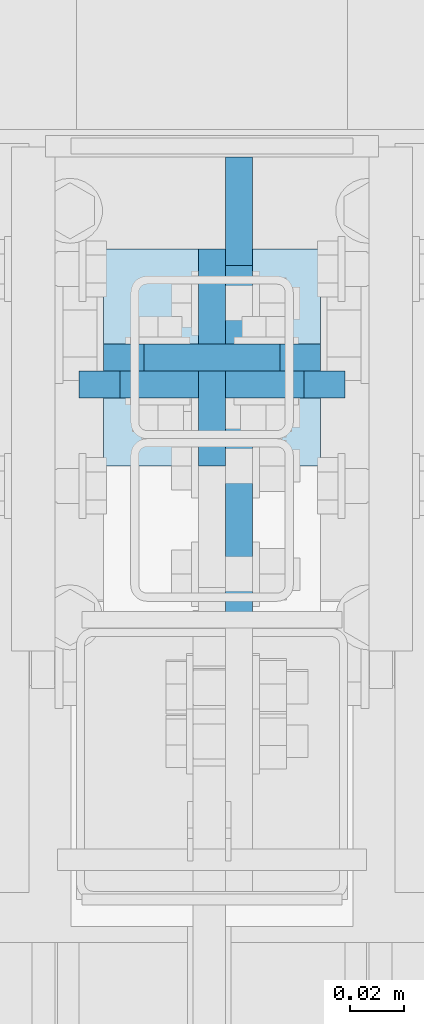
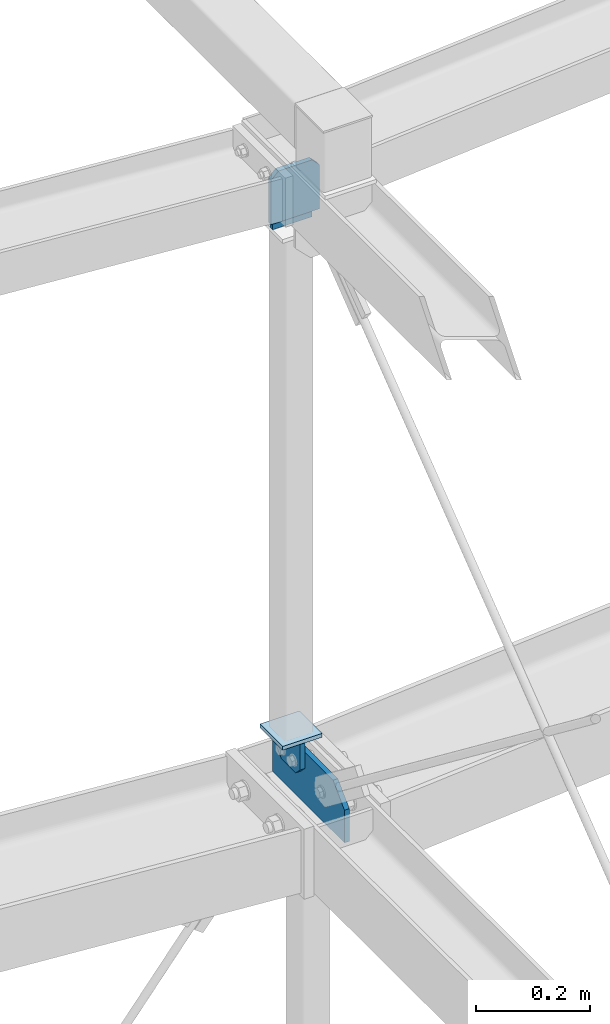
# One storey, part 133 of 271: 5 plates, 3 elements without a shape of their own.
"""IFC2X3 building model written with IfcOpenShell, lengths in millimetres."""

import ifcopenshell
import ifcopenshell.guid

model = None  # the IFC model being written
_history = None  # IfcOwnerHistory: only IFC2X3 demands one
_inside = {}  # id of a spatial element -> (the spatial element, [elements in it])
_under = {}  # id of a project, library or spatial element -> (it, [spatial elements below it])
_declared = {}  # id of a project -> (the project, [libraries it declares])
_typed = {}  # id of a type object -> (the type object, [elements of that type])
_made_of = {}  # id of a material, layer set ... -> (it, [elements and type objects made of it])


def new_model(schema):
    """Start an empty IFC model of exactly this schema.

    Asked for "IFC4X3", IfcOpenShell would pick the latest addendum, in which some entities
    have other attributes; the version numbers below select the first issue.
    IFC2X3 requires an IfcOwnerHistory on every rooted entity: one is made here for all.
    """
    global model, _history
    if schema == "IFC4X3":
        model = ifcopenshell.file(schema_version=(4, 3, 0, 0))
    else:
        model = ifcopenshell.file(schema=schema)
    _inside.clear()
    _under.clear()
    _declared.clear()
    _typed.clear()
    _made_of.clear()
    _history = None
    if model.schema == "IFC2X3":
        org = make("IfcOrganization", Name="unknown")
        user = make(
            "IfcPersonAndOrganization",
            ThePerson=make("IfcPerson", FamilyName="unknown"),
            TheOrganization=org,
        )
        app = make(
            "IfcApplication",
            ApplicationDeveloper=org,
            Version="unknown",
            ApplicationFullName="unknown",
            ApplicationIdentifier="unknown",
        )
        _history = make(
            "IfcOwnerHistory",
            OwningUser=user,
            OwningApplication=app,
            ChangeAction="ADDED",
            CreationDate=0,
        )
    return model


def make(cls, **values):
    """One entity of the class cls with the attributes given. An attribute that is None is left unset."""
    return model.create_entity(
        cls, **{name: value for name, value in values.items() if value is not None}
    )


def rooted(cls, **values):
    """An entity with a GlobalId (a new one), such as an element, a storey or a relation."""
    return make(cls, GlobalId=ifcopenshell.guid.new(), OwnerHistory=_history, **values)


def si_unit(unit_type, name, prefix=None):
    """IfcSIUnit, for example si_unit("LENGTHUNIT", "METRE", prefix="MILLI")."""
    return make("IfcSIUnit", UnitType=unit_type, Prefix=prefix, Name=name)


def assignment(units):
    """IfcUnitAssignment: the units of a project."""
    return None if units is None else make("IfcUnitAssignment", Units=units)


def point(xyz):
    """IfcCartesianPoint."""
    return None if xyz is None else make("IfcCartesianPoint", Coordinates=xyz)


def direction(xyz):
    """IfcDirection."""
    return None if xyz is None else make("IfcDirection", DirectionRatios=xyz)


def frame(location, z_axis=None, x_axis=None):
    """IfcAxis2Placement3D, a coordinate frame: its origin and axes. An axis left out is left unset."""
    return make(
        "IfcAxis2Placement3D",
        Location=point(location),
        Axis=direction(z_axis),
        RefDirection=direction(x_axis),
    )


def origin_with_axes():
    """The frame at (0, 0, 0) with the z axis (0, 0, 1) and the x axis (1, 0, 0) written out."""
    return frame((0.0, 0.0, 0.0), z_axis=(0.0, 0.0, 1.0), x_axis=(1.0, 0.0, 0.0))


def place(relative_to, where):
    """IfcLocalPlacement: puts the frame where relative to a parent placement (None: the world)."""
    return make(
        "IfcLocalPlacement", PlacementRelTo=relative_to, RelativePlacement=where
    )


def context(
    kind, dimensions, precision=None, world=None, true_north=None, identifier=None
):
    """IfcGeometricRepresentationContext, for example the 3D "Model" context."""
    return make(
        "IfcGeometricRepresentationContext",
        ContextIdentifier=identifier,
        ContextType=kind,
        CoordinateSpaceDimension=dimensions,
        Precision=precision,
        WorldCoordinateSystem=world,
        TrueNorth=true_north,
    )


def subcontext(parent, identifier, kind, view, scale=None):
    """IfcGeometricRepresentationSubContext, for example "Body" below "Model"."""
    return make(
        "IfcGeometricRepresentationSubContext",
        ContextIdentifier=identifier,
        ContextType=kind,
        ParentContext=parent,
        TargetScale=scale,
        TargetView=view,
    )


def project(units=None, contexts=None):
    """IfcProject with its units and contexts."""
    return rooted(
        "IfcProject",
        Name="project",
        RepresentationContexts=contexts,
        UnitsInContext=assignment(units),
    )


def spatial(cls, under=None, at=None, **own):
    """A site, building, storey or space (cls), placed at a placement, below another one or the project."""
    s = rooted(cls, ObjectPlacement=at, **own)
    if under is not None:
        _under.setdefault(under.id(), (under, []))[1].append(s)
    return s


def polyline(points):
    """IfcPolyline through the points."""
    return make("IfcPolyline", Points=[point(p) for p in points])


def outline(outer, holes=None, kind="AREA"):
    """IfcArbitraryClosedProfileDef: a profile drawn as a closed curve; with holes, ...WithVoids."""
    if holes is None:
        return make("IfcArbitraryClosedProfileDef", ProfileType=kind, OuterCurve=outer)
    return make(
        "IfcArbitraryProfileDefWithVoids",
        ProfileType=kind,
        OuterCurve=outer,
        InnerCurves=holes,
    )


def extrude(swept, where, along, depth):
    """IfcExtrudedAreaSolid: the profile swept, set in the frame where, extruded along a direction by depth."""
    return make(
        "IfcExtrudedAreaSolid",
        SweptArea=swept,
        Position=where,
        ExtrudedDirection=direction(along),
        Depth=depth,
    )


def shape(context_of_items, identifier, shape_type, items):
    """IfcShapeRepresentation: the items that make up one representation, for example the "Body"."""
    return make(
        "IfcShapeRepresentation",
        ContextOfItems=context_of_items,
        RepresentationIdentifier=identifier,
        RepresentationType=shape_type,
        Items=items,
    )


def material(Name=None, Category=None):
    """IfcMaterial."""
    return make("IfcMaterial", Name=Name, Category=Category)


def made_of(thing, what):
    """Note that an element or type object is made of a material, layer set ...; save() writes the relation."""
    if what is not None:
        _made_of.setdefault(what.id(), (what, []))[1].append(thing)
    return thing


def type_object(cls, material=None, **own):
    """A type object (cls), such as IfcWallType, which elements share."""
    return made_of(rooted(cls, **own), material)


def element(
    cls,
    number,
    at=None,
    inside=None,
    cuts=None,
    type_object=None,
    material=None,
    context=None,
    identifier="Body",
    shape_type=None,
    held_by="IfcProductDefinitionShape",
    body=None,
    shapes=None,
    **own,
):
    """One element of the class cls, such as IfcWall. Its Tag is "e" and its number.

    at: its placement. inside: the storey or other place that contains it. cuts: it is an
    opening in that element (IfcRelVoidsElement). A single representation is given by context,
    identifier, shape_type and body (its items); several are given by shapes. held_by: the class
    of the entity that holds the representations. save() writes the other relations.
    """
    e = rooted(cls, Tag="e%d" % number, ObjectPlacement=at, **own)
    if body is not None:
        shapes = [shape(context, identifier, shape_type, body)]
    if shapes is not None:
        e.Representation = make(held_by, Representations=shapes)
    if inside is not None:
        _inside.setdefault(inside.id(), (inside, []))[1].append(e)
    if cuts is not None:
        rooted(
            "IfcRelVoidsElement", RelatingBuildingElement=cuts, RelatedOpeningElement=e
        )
    if type_object is not None:
        _typed.setdefault(type_object.id(), (type_object, []))[1].append(e)
    return made_of(e, material)


def aggregate(whole, parts):
    """IfcRelAggregates: a whole, such as a stair, and the parts it consists of."""
    return rooted("IfcRelAggregates", RelatingObject=whole, RelatedObjects=parts)


def save(model, path):
    """Write the relations noted so far, then the file.

    IfcRelAggregates (storeys below a building ...), IfcRelContainedInSpatialStructure (elements
    in a storey), IfcRelDefinesByType, IfcRelAssociatesMaterial and IfcRelDeclares: one each for
    every whole, place, type object, material and project.
    """
    for whole, parts in _under.values():
        aggregate(whole, parts)
    for where, things in _inside.values():
        rooted(
            "IfcRelContainedInSpatialStructure",
            RelatedElements=things,
            RelatingStructure=where,
        )
    for kind, things in _typed.values():
        rooted("IfcRelDefinesByType", RelatedObjects=things, RelatingType=kind)
    for what, things in _made_of.values():
        rooted("IfcRelAssociatesMaterial", RelatedObjects=things, RelatingMaterial=what)
    for by, libraries in _declared.values():
        rooted("IfcRelDeclares", RelatingContext=by, RelatedDefinitions=libraries)
    model.write(path)


model = new_model("IFC2X3")

# Units and contexts
model_context = context("Model", 3, precision=1e-05, world=origin_with_axes())
body_context = subcontext(model_context, "Body", "Model", "MODEL_VIEW")
ifc_project = project(units=[si_unit("LENGTHUNIT", "METRE", prefix="MILLI"), si_unit("AREAUNIT", "SQUARE_METRE"), si_unit("VOLUMEUNIT", "CUBIC_METRE"), si_unit("MASSUNIT", "GRAM", prefix="KILO"), si_unit("TIMEUNIT", "SECOND"), si_unit("PLANEANGLEUNIT", "RADIAN"), si_unit("SOLIDANGLEUNIT", "STERADIAN"), si_unit("THERMODYNAMICTEMPERATUREUNIT", "DEGREE_CELSIUS"), si_unit("LUMINOUSINTENSITYUNIT", "LUMEN")], contexts=[model_context])

# Site, building, storey
site_placement = place(None, origin_with_axes())
site = spatial("IfcSite", under=ifc_project, at=site_placement, Name="Undefined", CompositionType="ELEMENT")
building_placement = place(site_placement, origin_with_axes())
building = spatial("IfcBuilding", under=site, at=building_placement, Name="Undefined", CompositionType="ELEMENT")
storey_placement = place(building_placement, origin_with_axes())
storey = spatial("IfcBuildingStorey", under=building, at=storey_placement, Name="Undefined", CompositionType="ELEMENT", Elevation=0.0)

# Assembly, plates
assembly_1_placement = place(storey_placement, origin_with_axes())
assembly_1 = element("IfcElementAssembly", 1, at=assembly_1_placement, inside=storey, AssemblyPlace="NOTDEFINED", PredefinedType="RIGID_FRAME")
ifc_material = material(Name="STEEL/S355JR")
plate_type_1 = type_object("IfcPlateType", Name="BL10*70", PredefinedType="NOTDEFINED")
plate_1_placement = place(assembly_1_placement, frame((6308.37568736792, 3764.92439872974, 19926.8499999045), z_axis=(0.0, 1.0, 0.0), x_axis=(0.707106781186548, 0.0, 0.707106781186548)))
plate_1 = element("IfcPlate", 2, at=plate_1_placement, type_object=plate_type_1, material=ifc_material, Name="BLACHA", ObjectType="BL10*70", context=body_context, shape_type="SweptSolid", body=[
    extrude(outline(polyline([(0.0, 0.0), (21.2132034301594, 1.09139364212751e-11), (56.5685424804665, 35.3553390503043), (56.568542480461, 56.5685424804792), (17.6776695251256, 95.4594192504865), (-38.890872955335, 38.8908729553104), (0.0, 0.0)])), frame((0.0, 0.0, -5.0), z_axis=(0.0, 0.0, 1.0), x_axis=(1.0, 0.0, 0.0)), (0.0, 0.0, 1.0), 10.0),
])
plate_2_placement = place(assembly_1_placement, frame((6348.37568736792, 3804.92439872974, 18722.0999999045), z_axis=(-1.0, 0.0, 1.38777878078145e-17), x_axis=(0.0, -0.707106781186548, -0.707106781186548)))
plate_2 = element("IfcPlate", 3, at=plate_2_placement, type_object=plate_type_1, material=ifc_material, Name="BLACHA", ObjectType="BL10*70", context=body_context, shape_type="SweptSolid", body=[
    extrude(outline(polyline([(0.0, 0.0), (21.2132034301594, 1.09139364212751e-11), (56.5685424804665, 35.3553390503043), (56.568542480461, 56.5685424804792), (17.6776695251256, 95.4594192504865), (-38.890872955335, 38.8908729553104), (0.0, 0.0)])), frame((0.0, 0.0, -5.0), z_axis=(0.0, 0.0, 1.0), x_axis=(1.0, 0.0, 0.0)), (0.0, 0.0, 1.0), 10.0),
])
plate_type_2 = type_object("IfcPlateType", Name="BL8*80", PredefinedType="NOTDEFINED")
plate_3_placement = place(assembly_1_placement, frame((6388.37568736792, 3804.92439872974, 18781.0999999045), z_axis=(0.0, 0.0, -1.0), x_axis=(0.0, -1.0, 0.0)))
plate_3 = element("IfcPlate", 4, at=plate_3_placement, type_object=plate_type_2, material=ifc_material, Name="BLACHA", ObjectType="BL8*80", context=body_context, shape_type="SweptSolid", body=[
    extrude(outline(polyline([(0.0, 0.0), (80.0, 0.0), (80.0, 80.0), (0.0, 80.0), (0.0, 0.0)])), frame((0.0, 0.0, -4.0), z_axis=(0.0, 0.0, 1.0), x_axis=(1.0, 0.0, 0.0)), (0.0, 0.0, 1.0), 8.0),
])
aggregate(assembly_1, [plate_1, plate_3, plate_2])

# Assembly, plate
assembly_2_placement = place(storey_placement, origin_with_axes())
assembly_2 = element("IfcElementAssembly", 5, at=assembly_2_placement, inside=storey, AssemblyPlace="NOTDEFINED", PredefinedType="RIGID_FRAME")
plate_type_3 = type_object("IfcPlateType", Name="BL10*110", PredefinedType="NOTDEFINED")
plate_4_placement = place(assembly_2_placement, frame((6358.37568736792, 3838.79740054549, 18647.0999999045), z_axis=(-1.0, 0.0, 1.38777878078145e-17), x_axis=(0.0, -1.0, 0.0)))
plate_4 = element("IfcPlate", 6, at=plate_4_placement, type_object=plate_type_3, material=ifc_material, Name="BLACHA", ObjectType="BL10*110", context=body_context, shape_type="SweptSolid", body=[
    extrude(outline(polyline([(0.0, 0.0), (253.0, 0.0), (253.0, 70.0), (213.0, 110.0), (40.0, 110.0), (0.0, 70.0), (0.0, 0.0)])), frame((0.0, 0.0, -5.0), z_axis=(0.0, 0.0, 1.0), x_axis=(1.0, 0.0, 0.0)), (0.0, 0.0, 1.0), 10.0),
])
aggregate(assembly_2, [plate_4])

assembly_3_placement = place(storey_placement, origin_with_axes())
assembly_3 = element("IfcElementAssembly", 7, at=assembly_3_placement, inside=storey, AssemblyPlace="NOTDEFINED", PredefinedType="RIGID_FRAME")
plate_type_4 = type_object("IfcPlateType", Name="BL10*98", PredefinedType="NOTDEFINED")
plate_5_placement = place(assembly_3_placement, frame((6397.37568709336, 3754.92439872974, 20001.8499999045), z_axis=(0.0, 1.0, 0.0), x_axis=(0.0, 0.0, -1.0)))
plate_5 = element("IfcPlate", 8, at=plate_5_placement, type_object=plate_type_4, material=ifc_material, Name="BLACHA", ObjectType="BL10*98", context=body_context, shape_type="SweptSolid", body=[
    extrude(outline(polyline([(0.0, 15.0), (15.0, -1.59872115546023e-14), (110.0, -1.4210854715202e-14), (110.0, 98.0000000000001), (15.0, 98.0000000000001), (0.0, 83.0000000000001), (0.0, 15.0)])), frame((0.0, 0.0, -5.0), z_axis=(0.0, 0.0, 1.0), x_axis=(1.0, 0.0, 0.0)), (0.0, 0.0, 1.0), 10.0),
])
aggregate(assembly_3, [plate_5])

save(model, "model.ifc")
